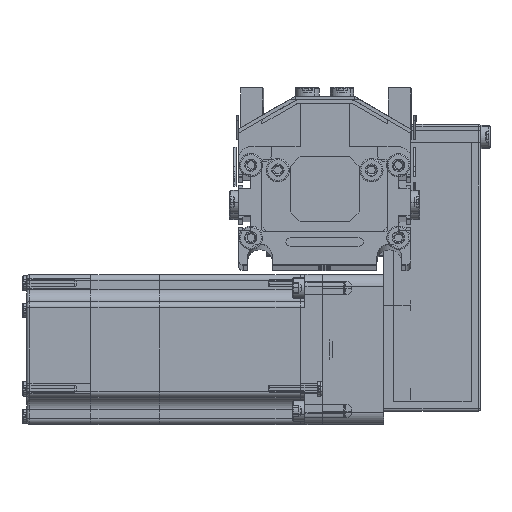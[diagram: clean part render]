
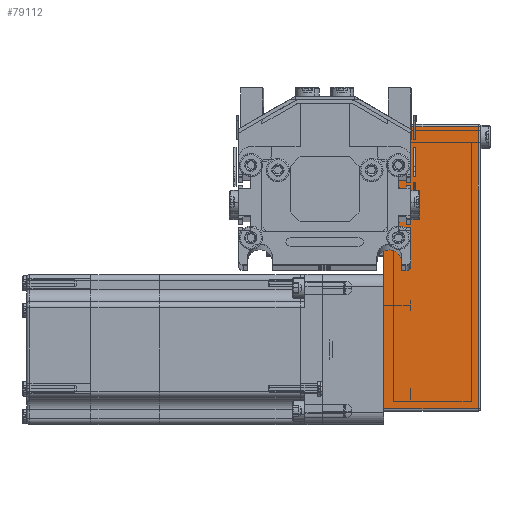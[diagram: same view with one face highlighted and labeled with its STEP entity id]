
A CAD part, top view. The second image highlights one B-rep face of the part: STEP entity #79112.
In plain terms, the highlighted planar face has unit normal (0, 0, 1) as drawn and (0, -1, 0) by its records, which use the part's own axes.
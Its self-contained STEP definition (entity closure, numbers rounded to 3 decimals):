
#7962 = CARTESIAN_POINT ( 'NONE',  ( -49., -25., 0. ) ) ;
#8232 = CARTESIAN_POINT ( 'NONE',  ( 65.5, -25., 0. ) ) ;
#8580 = CARTESIAN_POINT ( 'NONE',  ( 65.5, -25., 38.5 ) ) ;
#8629 = CARTESIAN_POINT ( 'NONE',  ( -49., -25., 38.5 ) ) ;
#8674 = DIRECTION ( 'NONE',  ( 0., 0., 1. ) ) ;
#8675 = VECTOR ( 'NONE', #8674, 1000. ) ;
#8676 = CARTESIAN_POINT ( 'NONE',  ( 65.5, -25., 39.5 ) ) ;
#8677 = LINE ( 'NONE', #8676, #8675 ) ;
#8710 = VECTOR ( 'NONE', #8728, 1000. ) ;
#8728 = DIRECTION ( 'NONE',  ( 1., 0., 0. ) ) ;
#8729 = CARTESIAN_POINT ( 'NONE',  ( -50., -25., 0. ) ) ;
#8776 = LINE ( 'NONE', #8729, #8710 ) ;
#8802 = CARTESIAN_POINT ( 'NONE',  ( -49., -25., 39.5 ) ) ;
#8805 = AXIS2_PLACEMENT_3D ( 'NONE', #8817, #8840, #8826 ) ;
#8817 = CARTESIAN_POINT ( 'NONE',  ( -50., -25., 39.5 ) ) ;
#8821 = DIRECTION ( 'NONE',  ( -1., 0., 0. ) ) ;
#8822 = VECTOR ( 'NONE', #8821, 1000. ) ;
#8823 = CARTESIAN_POINT ( 'NONE',  ( -50., -25., 38.5 ) ) ;
#8824 = LINE ( 'NONE', #8823, #8822 ) ;
#8826 = DIRECTION ( 'NONE',  ( 0., 0., 1. ) ) ;
#8828 = LINE ( 'NONE', #8802, #8982 ) ;
#8840 = DIRECTION ( 'NONE',  ( 0., 1., 0. ) ) ;
#8894 = FACE_OUTER_BOUND ( 'NONE', #79205, .T. ) ;
#8981 = DIRECTION ( 'NONE',  ( 0., 0., -1. ) ) ;
#8982 = VECTOR ( 'NONE', #8981, 1000. ) ;
#8984 = PLANE ( 'NONE',  #8805 ) ;
#78682 = VERTEX_POINT ( 'NONE', #7962 ) ;
#78684 = VERTEX_POINT ( 'NONE', #8232 ) ;
#78916 = EDGE_CURVE ( 'NONE', #78682, #78684, #8776, .T. ) ;
#78976 = VERTEX_POINT ( 'NONE', #8629 ) ;
#79039 = EDGE_CURVE ( 'NONE', #78684, #79094, #8677, .T. ) ;
#79093 = ORIENTED_EDGE ( 'NONE', *, *, #79115, .T. ) ;
#79094 = VERTEX_POINT ( 'NONE', #8580 ) ;
#79106 = ORIENTED_EDGE ( 'NONE', *, *, #78916, .T. ) ;
#79112 = ADVANCED_FACE ( 'NONE', ( #8894 ), #8984, .F. ) ;
#79113 = EDGE_CURVE ( 'NONE', #78976, #78682, #8828, .T. ) ;
#79115 = EDGE_CURVE ( 'NONE', #79094, #78976, #8824, .T. ) ;
#79119 = ORIENTED_EDGE ( 'NONE', *, *, #79113, .T. ) ;
#79121 = ORIENTED_EDGE ( 'NONE', *, *, #79039, .T. ) ;
#79205 = EDGE_LOOP ( 'NONE', ( #79093, #79119, #79106, #79121 ) ) ;
